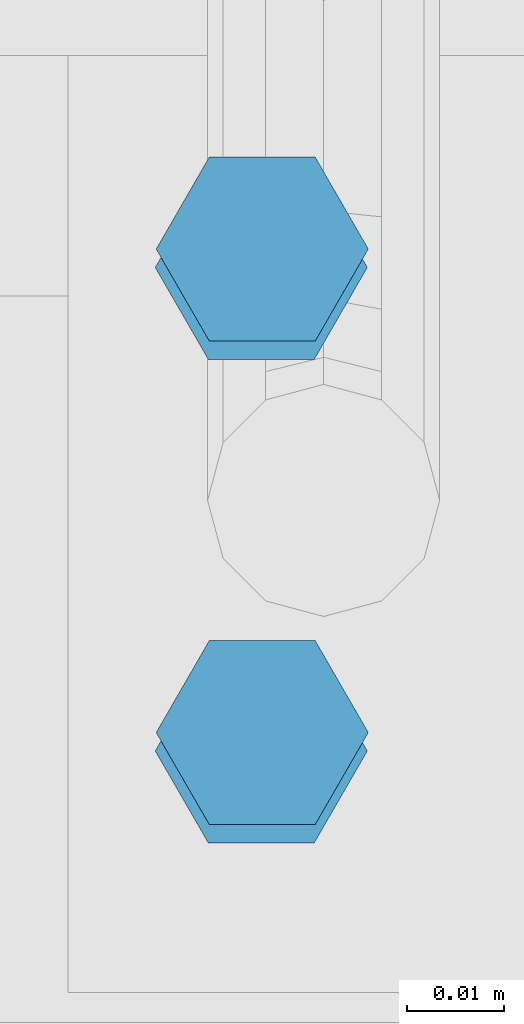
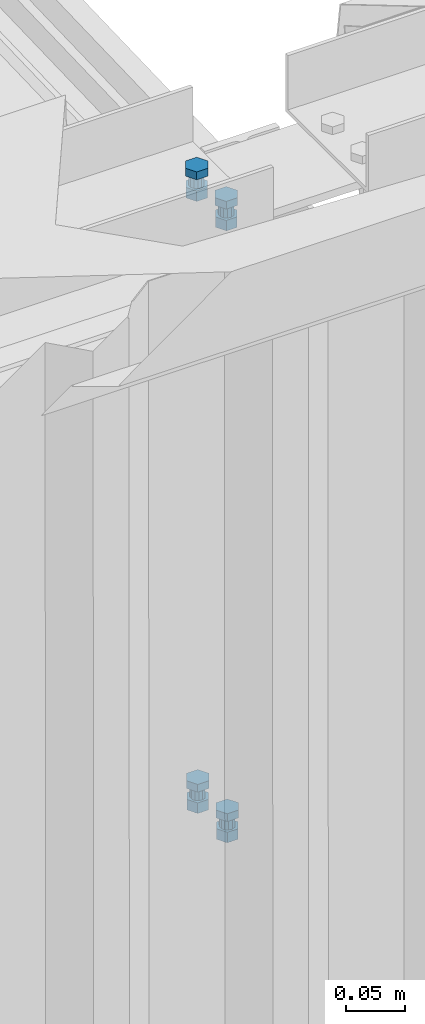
# One storey, part 16 of 18: 2 mechanical fasteners.
"""IFC2X3 building model written with IfcOpenShell, lengths in millimetres."""

import ifcopenshell
import ifcopenshell.guid

model = None  # the IFC model being written
_history = None  # IfcOwnerHistory: only IFC2X3 demands one
_inside = {}  # id of a spatial element -> (the spatial element, [elements in it])
_under = {}  # id of a project, library or spatial element -> (it, [spatial elements below it])
_declared = {}  # id of a project -> (the project, [libraries it declares])
_typed = {}  # id of a type object -> (the type object, [elements of that type])
_made_of = {}  # id of a material, layer set ... -> (it, [elements and type objects made of it])


def new_model(schema):
    """Start an empty IFC model of exactly this schema.

    Asked for "IFC4X3", IfcOpenShell would pick the latest addendum, in which some entities
    have other attributes; the version numbers below select the first issue.
    IFC2X3 requires an IfcOwnerHistory on every rooted entity: one is made here for all.
    """
    global model, _history
    if schema == "IFC4X3":
        model = ifcopenshell.file(schema_version=(4, 3, 0, 0))
    else:
        model = ifcopenshell.file(schema=schema)
    _inside.clear()
    _under.clear()
    _declared.clear()
    _typed.clear()
    _made_of.clear()
    _history = None
    if model.schema == "IFC2X3":
        org = make("IfcOrganization", Name="unknown")
        user = make(
            "IfcPersonAndOrganization",
            ThePerson=make("IfcPerson", FamilyName="unknown"),
            TheOrganization=org,
        )
        app = make(
            "IfcApplication",
            ApplicationDeveloper=org,
            Version="unknown",
            ApplicationFullName="unknown",
            ApplicationIdentifier="unknown",
        )
        _history = make(
            "IfcOwnerHistory",
            OwningUser=user,
            OwningApplication=app,
            ChangeAction="ADDED",
            CreationDate=0,
        )
    return model


def make(cls, **values):
    """One entity of the class cls with the attributes given. An attribute that is None is left unset."""
    return model.create_entity(
        cls, **{name: value for name, value in values.items() if value is not None}
    )


def rooted(cls, **values):
    """An entity with a GlobalId (a new one), such as an element, a storey or a relation."""
    return make(cls, GlobalId=ifcopenshell.guid.new(), OwnerHistory=_history, **values)


def si_unit(unit_type, name, prefix=None):
    """IfcSIUnit, for example si_unit("LENGTHUNIT", "METRE", prefix="MILLI")."""
    return make("IfcSIUnit", UnitType=unit_type, Prefix=prefix, Name=name)


def assignment(units):
    """IfcUnitAssignment: the units of a project."""
    return None if units is None else make("IfcUnitAssignment", Units=units)


def point(xyz):
    """IfcCartesianPoint."""
    return None if xyz is None else make("IfcCartesianPoint", Coordinates=xyz)


def direction(xyz):
    """IfcDirection."""
    return None if xyz is None else make("IfcDirection", DirectionRatios=xyz)


def frame(location, z_axis=None, x_axis=None):
    """IfcAxis2Placement3D, a coordinate frame: its origin and axes. An axis left out is left unset."""
    return make(
        "IfcAxis2Placement3D",
        Location=point(location),
        Axis=direction(z_axis),
        RefDirection=direction(x_axis),
    )


def origin_with_axes():
    """The frame at (0, 0, 0) with the z axis (0, 0, 1) and the x axis (1, 0, 0) written out."""
    return frame((0.0, 0.0, 0.0), z_axis=(0.0, 0.0, 1.0), x_axis=(1.0, 0.0, 0.0))


def place(relative_to, where):
    """IfcLocalPlacement: puts the frame where relative to a parent placement (None: the world)."""
    return make(
        "IfcLocalPlacement", PlacementRelTo=relative_to, RelativePlacement=where
    )


def context(
    kind, dimensions, precision=None, world=None, true_north=None, identifier=None
):
    """IfcGeometricRepresentationContext, for example the 3D "Model" context."""
    return make(
        "IfcGeometricRepresentationContext",
        ContextIdentifier=identifier,
        ContextType=kind,
        CoordinateSpaceDimension=dimensions,
        Precision=precision,
        WorldCoordinateSystem=world,
        TrueNorth=true_north,
    )


def subcontext(parent, identifier, kind, view, scale=None):
    """IfcGeometricRepresentationSubContext, for example "Body" below "Model"."""
    return make(
        "IfcGeometricRepresentationSubContext",
        ContextIdentifier=identifier,
        ContextType=kind,
        ParentContext=parent,
        TargetScale=scale,
        TargetView=view,
    )


def project(units=None, contexts=None):
    """IfcProject with its units and contexts."""
    return rooted(
        "IfcProject",
        Name="project",
        RepresentationContexts=contexts,
        UnitsInContext=assignment(units),
    )


def spatial(cls, under=None, at=None, **own):
    """A site, building, storey or space (cls), placed at a placement, below another one or the project."""
    s = rooted(cls, ObjectPlacement=at, **own)
    if under is not None:
        _under.setdefault(under.id(), (under, []))[1].append(s)
    return s


def faces_of(points, faces, orient=None, outer=None):
    """IfcFace entities. A face is a list of loops; a loop is a list of indices into points, from 0.

    orient and outer hold one flag for each loop. By default every Orientation is true, the
    first loop of a face is its IfcFaceOuterBound and the others are IfcFaceBound.
    """
    made = []
    for i, loops in enumerate(faces):
        bounds = []
        for j, loop in enumerate(loops):
            is_outer = j == 0 if outer is None else outer[i][j]
            bounds.append(
                make(
                    "IfcFaceOuterBound" if is_outer else "IfcFaceBound",
                    Bound=make("IfcPolyLoop", Polygon=[points[k] for k in loop]),
                    Orientation=True if orient is None else orient[i][j],
                )
            )
        made.append(make("IfcFace", Bounds=bounds))
    return made


def faceted_brep(points, faces, orient=None, outer=None, voids=None):
    """IfcFacetedBrep: a solid bounded by flat faces; with voids (closed shells), ...WithVoids."""
    shared = [point(p) for p in points]
    hull = make("IfcClosedShell", CfsFaces=faces_of(shared, faces, orient, outer))
    if voids is None:
        return make("IfcFacetedBrep", Outer=hull)
    return make(
        "IfcFacetedBrepWithVoids",
        Outer=hull,
        Voids=[
            make(cls, CfsFaces=faces_of(shared, fs, o, b)) for cls, fs, o, b in voids
        ],
    )


def shape(context_of_items, identifier, shape_type, items):
    """IfcShapeRepresentation: the items that make up one representation, for example the "Body"."""
    return make(
        "IfcShapeRepresentation",
        ContextOfItems=context_of_items,
        RepresentationIdentifier=identifier,
        RepresentationType=shape_type,
        Items=items,
    )


def source(mapping_origin, context_of_items, identifier, shape_type, items):
    """IfcRepresentationMap: a shape defined once, which mapped items show again and again."""
    return make(
        "IfcRepresentationMap",
        MappingOrigin=mapping_origin,
        MappedRepresentation=shape(context_of_items, identifier, shape_type, items),
    )


def transform(
    local_origin,
    x_axis=None,
    y_axis=None,
    z_axis=None,
    scale=None,
    scale2=None,
    scale3=None,
    uniform=True,
):
    """IfcCartesianTransformationOperator3D, or its non-uniform kind. x_axis, y_axis, z_axis: its Axis1, 2, 3."""
    if uniform:
        return make(
            "IfcCartesianTransformationOperator3D",
            Axis1=direction(x_axis),
            Axis2=direction(y_axis),
            LocalOrigin=point(local_origin),
            Scale=scale,
            Axis3=direction(z_axis),
        )
    return make(
        "IfcCartesianTransformationOperator3DnonUniform",
        Axis1=direction(x_axis),
        Axis2=direction(y_axis),
        LocalOrigin=point(local_origin),
        Scale=scale,
        Axis3=direction(z_axis),
        Scale2=scale2,
        Scale3=scale3,
    )


def mapped(mapping_source, mapping_target):
    """IfcMappedItem: shows the shape of a source again, moved by a transform."""
    return make(
        "IfcMappedItem", MappingSource=mapping_source, MappingTarget=mapping_target
    )


def made_of(thing, what):
    """Note that an element or type object is made of a material, layer set ...; save() writes the relation."""
    if what is not None:
        _made_of.setdefault(what.id(), (what, []))[1].append(thing)
    return thing


def type_object(cls, material=None, **own):
    """A type object (cls), such as IfcWallType, which elements share."""
    return made_of(rooted(cls, **own), material)


def element(
    cls,
    number,
    at=None,
    inside=None,
    cuts=None,
    type_object=None,
    material=None,
    context=None,
    identifier="Body",
    shape_type=None,
    held_by="IfcProductDefinitionShape",
    body=None,
    shapes=None,
    **own,
):
    """One element of the class cls, such as IfcWall. Its Tag is "e" and its number.

    at: its placement. inside: the storey or other place that contains it. cuts: it is an
    opening in that element (IfcRelVoidsElement). A single representation is given by context,
    identifier, shape_type and body (its items); several are given by shapes. held_by: the class
    of the entity that holds the representations. save() writes the other relations.
    """
    e = rooted(cls, Tag="e%d" % number, ObjectPlacement=at, **own)
    if body is not None:
        shapes = [shape(context, identifier, shape_type, body)]
    if shapes is not None:
        e.Representation = make(held_by, Representations=shapes)
    if inside is not None:
        _inside.setdefault(inside.id(), (inside, []))[1].append(e)
    if cuts is not None:
        rooted(
            "IfcRelVoidsElement", RelatingBuildingElement=cuts, RelatedOpeningElement=e
        )
    if type_object is not None:
        _typed.setdefault(type_object.id(), (type_object, []))[1].append(e)
    return made_of(e, material)


def aggregate(whole, parts):
    """IfcRelAggregates: a whole, such as a stair, and the parts it consists of."""
    return rooted("IfcRelAggregates", RelatingObject=whole, RelatedObjects=parts)


def save(model, path):
    """Write the relations noted so far, then the file.

    IfcRelAggregates (storeys below a building ...), IfcRelContainedInSpatialStructure (elements
    in a storey), IfcRelDefinesByType, IfcRelAssociatesMaterial and IfcRelDeclares: one each for
    every whole, place, type object, material and project.
    """
    for whole, parts in _under.values():
        aggregate(whole, parts)
    for where, things in _inside.values():
        rooted(
            "IfcRelContainedInSpatialStructure",
            RelatedElements=things,
            RelatingStructure=where,
        )
    for kind, things in _typed.values():
        rooted("IfcRelDefinesByType", RelatedObjects=things, RelatingType=kind)
    for what, things in _made_of.values():
        rooted("IfcRelAssociatesMaterial", RelatedObjects=things, RelatingMaterial=what)
    for by, libraries in _declared.values():
        rooted("IfcRelDeclares", RelatingContext=by, RelatedDefinitions=libraries)
    model.write(path)


model = new_model("IFC2X3")

# Units and contexts
model_context = context("Model", 3, precision=1e-05, world=origin_with_axes())
body_context = subcontext(model_context, "Body", "Model", "MODEL_VIEW")
ifc_project = project(units=[si_unit("LENGTHUNIT", "METRE", prefix="MILLI"), si_unit("AREAUNIT", "SQUARE_METRE"), si_unit("VOLUMEUNIT", "CUBIC_METRE"), si_unit("MASSUNIT", "GRAM", prefix="KILO"), si_unit("TIMEUNIT", "SECOND"), si_unit("PLANEANGLEUNIT", "RADIAN"), si_unit("SOLIDANGLEUNIT", "STERADIAN"), si_unit("THERMODYNAMICTEMPERATUREUNIT", "DEGREE_CELSIUS"), si_unit("LUMINOUSINTENSITYUNIT", "LUMEN")], contexts=[model_context])

# Site, building, storey
site_placement = place(None, origin_with_axes())
site = spatial("IfcSite", under=ifc_project, at=site_placement, Name="Undefined", CompositionType="ELEMENT")
building_placement = place(site_placement, origin_with_axes())
building = spatial("IfcBuilding", under=site, at=building_placement, Name="Undefined", CompositionType="ELEMENT")
storey_placement = place(building_placement, origin_with_axes())
storey = spatial("IfcBuildingStorey", under=building, at=storey_placement, Name="Undefined", CompositionType="ELEMENT", Elevation=0.0)

# Mechanical fasteners
mechanical_fastener_type = type_object("IfcMechanicalFastenerType", Name="Bolt assembly")
shared_shape_1 = source(origin_with_axes(), body_context, "Body", "Brep", [
    faceted_brep([(10.96965511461, -18.0005665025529, 0.0), (5.484827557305, -18.0005665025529, 9.50000000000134), (-5.484827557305, -18.0005665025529, 9.50000000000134), (-10.96965511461, -18.0005665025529, 0.0), (-5.484827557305, -18.0005665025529, -9.50000000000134), (5.484827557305, -18.0005665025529, -9.50000000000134), (5.484827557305, -10.0005665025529, -9.50000000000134), (-5.484827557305, -10.0005665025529, -9.50000000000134), (-10.96965511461, -10.0005665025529, 0.0), (-5.484827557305, -10.0005665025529, 9.50000000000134), (5.484827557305, -10.0005665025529, 9.50000000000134), (10.96965511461, -10.0005665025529, 0.0), (6.0, -10.0005665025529, 0.0), (5.31273615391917, -10.0005665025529, 2.78833903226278), (3.40838848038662, -10.0005665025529, 4.93790319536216), (0.723220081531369, -10.0005665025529, 5.95625324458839), (-2.12762932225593, -10.0005665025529, 5.61009745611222), (-4.49106448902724, -10.0005665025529, 3.97873594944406), (-5.82565090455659, -10.0005665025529, 1.43589398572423), (-5.82565090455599, -10.0005665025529, -1.43589398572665), (-4.49106448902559, -10.0005665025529, -3.97873594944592), (-2.12762932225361, -10.0005665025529, -5.6100974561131), (0.723220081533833, -10.0005665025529, -5.95625324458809), (3.40838848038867, -10.0005665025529, -4.93790319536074), (3.40838848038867, 14.9994334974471, -4.93790319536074), (0.723220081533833, 14.9994334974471, -5.95625324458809), (-2.12762932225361, 14.9994334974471, -5.6100974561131), (-4.49106448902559, 14.9994334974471, -3.97873594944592), (-5.82565090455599, 14.9994334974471, -1.43589398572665), (-5.82565090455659, 14.9994334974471, 1.43589398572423), (-4.49106448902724, 14.9994334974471, 3.97873594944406), (-2.12762932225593, 14.9994334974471, 5.61009745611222), (0.723220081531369, 14.9994334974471, 5.95625324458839), (3.40838848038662, 14.9994334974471, 4.93790319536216), (5.31273615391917, 14.9994334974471, 2.78833903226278), (6.0, 14.9994334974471, 0.0), (10.39230484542, 1.99943250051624, 0.0), (5.19615242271, 1.99943250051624, 9.00000000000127), (-5.19615242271, 1.99943250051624, 9.00000000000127), (-10.39230484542, 1.99943250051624, 0.0), (-5.19615242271, 1.99943250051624, -9.00000000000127), (5.19615242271, 1.99943250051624, -9.00000000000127), (5.19615242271, 12.7994326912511, -9.00000000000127), (-5.19615242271, 12.7994326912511, -9.00000000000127), (-10.39230484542, 12.7994326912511, 0.0), (-5.19615242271, 12.7994326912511, 9.00000000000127), (5.19615242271, 12.7994326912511, 9.00000000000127), (10.39230484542, 12.7994326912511, 0.0)], [[[0, 1, 2, 3, 4, 5]], [[6, 7, 8, 9, 10, 11]], [[0, 11, 10, 1]], [[1, 10, 9, 2]], [[2, 9, 8, 3]], [[3, 8, 7, 4]], [[4, 7, 6, 5]], [[5, 6, 11, 0]], [[12, 13, 14, 15, 16, 17, 18, 19, 20, 21, 22, 23]], [[24, 25, 26, 27, 28, 29, 30, 31, 32, 33, 34, 35]], [[12, 35, 34, 13]], [[13, 34, 33, 14]], [[14, 33, 32, 15]], [[15, 32, 31, 16]], [[16, 31, 30, 17]], [[17, 30, 29, 18]], [[18, 29, 28, 19]], [[19, 28, 27, 20]], [[20, 27, 26, 21]], [[21, 26, 25, 22]], [[22, 25, 24, 23]], [[23, 24, 35, 12]], [[36, 37, 38, 39, 40, 41]], [[42, 43, 44, 45, 46, 47]], [[36, 47, 46, 37]], [[37, 46, 45, 38]], [[38, 45, 44, 39]], [[39, 44, 43, 40]], [[40, 43, 42, 41]], [[41, 42, 47, 36]]]),
    faceted_brep([(7.0, -6.10056750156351, 0.0), (6.19819217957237, -6.10056750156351, 3.25306220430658), (3.97645322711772, -6.10056750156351, 5.76088706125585), (0.843756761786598, -6.10056750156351, 6.94896211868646), (-2.48223420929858, -6.10056750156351, 6.54511369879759), (-5.23957523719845, -6.10056750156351, 4.64185860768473), (-6.79659272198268, -6.10056750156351, 1.67520965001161), (-6.79659272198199, -6.10056750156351, -1.67520965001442), (-5.23957523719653, -6.10056750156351, -4.6418586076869), (-2.48223420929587, -6.10056750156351, -6.54511369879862), (0.843756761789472, -6.10056750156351, -6.94896211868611), (3.97645322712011, -6.10056750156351, -5.7608870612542), (3.97645322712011, 1.99943250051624, -5.7608870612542), (0.843756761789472, 1.99943250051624, -6.94896211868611), (-2.48223420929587, 1.99943250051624, -6.54511369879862), (-5.23957523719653, 1.99943250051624, -4.6418586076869), (-6.79659272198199, 1.99943250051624, -1.67520965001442), (-6.79659272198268, 1.99943250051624, 1.67520965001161), (-5.23957523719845, 1.99943250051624, 4.64185860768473), (-2.48223420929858, 1.99943250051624, 6.54511369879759), (0.843756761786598, 1.99943250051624, 6.94896211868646), (3.97645322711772, 1.99943250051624, 5.76088706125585), (6.19819217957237, 1.99943250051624, 3.25306220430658), (7.0, 1.99943250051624, 0.0), (7.0, -9.90056650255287, 0.0), (6.19819217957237, -9.90056650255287, 3.25306220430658), (3.97645322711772, -9.90056650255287, 5.76088706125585), (0.843756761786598, -9.90056650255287, 6.94896211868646), (-2.48223420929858, -9.90056650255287, 6.54511369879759), (-5.23957523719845, -9.90056650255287, 4.64185860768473), (-6.79659272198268, -9.90056650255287, 1.67520965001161), (-6.79659272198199, -9.90056650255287, -1.67520965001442), (-5.23957523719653, -9.90056650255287, -4.6418586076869), (-2.48223420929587, -9.90056650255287, -6.54511369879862), (0.843756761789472, -9.90056650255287, -6.94896211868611), (3.97645322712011, -9.90056650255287, -5.7608870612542), (3.97645322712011, -5.90056650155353, -5.7608870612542), (0.843756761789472, -5.90056650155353, -6.94896211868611), (-2.48223420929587, -5.90056650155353, -6.54511369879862), (-5.23957523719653, -5.90056650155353, -4.6418586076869), (-6.79659272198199, -5.90056650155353, -1.67520965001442), (-6.79659272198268, -5.90056650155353, 1.67520965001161), (-5.23957523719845, -5.90056650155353, 4.64185860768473), (-2.48223420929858, -5.90056650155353, 6.54511369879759), (0.843756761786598, -5.90056650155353, 6.94896211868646), (3.97645322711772, -5.90056650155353, 5.76088706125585), (6.19819217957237, -5.90056650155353, 3.25306220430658), (7.0, -5.90056650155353, 0.0)], [[[0, 1, 2, 3, 4, 5, 6, 7, 8, 9, 10, 11]], [[12, 13, 14, 15, 16, 17, 18, 19, 20, 21, 22, 23]], [[0, 23, 22, 1]], [[1, 22, 21, 2]], [[2, 21, 20, 3]], [[3, 20, 19, 4]], [[4, 19, 18, 5]], [[5, 18, 17, 6]], [[6, 17, 16, 7]], [[7, 16, 15, 8]], [[8, 15, 14, 9]], [[9, 14, 13, 10]], [[10, 13, 12, 11]], [[11, 12, 23, 0]], [[24, 25, 26, 27, 28, 29, 30, 31, 32, 33, 34, 35]], [[36, 37, 38, 39, 40, 41, 42, 43, 44, 45, 46, 47]], [[24, 47, 46, 25]], [[25, 46, 45, 26]], [[26, 45, 44, 27]], [[27, 44, 43, 28]], [[28, 43, 42, 29]], [[29, 42, 41, 30]], [[30, 41, 40, 31]], [[31, 40, 39, 32]], [[32, 39, 38, 33]], [[33, 38, 37, 34]], [[34, 37, 36, 35]], [[35, 36, 47, 24]]]),
])
shared_shape_2 = source(origin_with_axes(), body_context, "Body", "Brep", [
    faceted_brep([(10.96965511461, -18.0005665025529, 0.0), (5.484827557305, -18.0005665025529, 9.50000000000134), (-5.484827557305, -18.0005665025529, 9.50000000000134), (-10.96965511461, -18.0005665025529, 0.0), (-5.484827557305, -18.0005665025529, -9.50000000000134), (5.484827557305, -18.0005665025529, -9.50000000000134), (5.484827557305, -10.0005665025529, -9.50000000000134), (-5.484827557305, -10.0005665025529, -9.50000000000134), (-10.96965511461, -10.0005665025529, 0.0), (-5.484827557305, -10.0005665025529, 9.50000000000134), (5.484827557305, -10.0005665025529, 9.50000000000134), (10.96965511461, -10.0005665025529, 0.0), (6.0, -10.0005665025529, 0.0), (5.31273615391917, -10.0005665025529, 2.78833903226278), (3.40838848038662, -10.0005665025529, 4.93790319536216), (0.723220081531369, -10.0005665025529, 5.95625324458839), (-2.12762932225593, -10.0005665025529, 5.61009745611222), (-4.49106448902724, -10.0005665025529, 3.97873594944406), (-5.82565090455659, -10.0005665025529, 1.43589398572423), (-5.82565090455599, -10.0005665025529, -1.43589398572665), (-4.49106448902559, -10.0005665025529, -3.97873594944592), (-2.12762932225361, -10.0005665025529, -5.6100974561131), (0.723220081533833, -10.0005665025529, -5.95625324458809), (3.40838848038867, -10.0005665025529, -4.93790319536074), (3.40838848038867, 14.9994334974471, -4.93790319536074), (0.723220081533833, 14.9994334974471, -5.95625324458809), (-2.12762932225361, 14.9994334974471, -5.6100974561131), (-4.49106448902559, 14.9994334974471, -3.97873594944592), (-5.82565090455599, 14.9994334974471, -1.43589398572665), (-5.82565090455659, 14.9994334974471, 1.43589398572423), (-4.49106448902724, 14.9994334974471, 3.97873594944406), (-2.12762932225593, 14.9994334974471, 5.61009745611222), (0.723220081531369, 14.9994334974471, 5.95625324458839), (3.40838848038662, 14.9994334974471, 4.93790319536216), (5.31273615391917, 14.9994334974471, 2.78833903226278), (6.0, 14.9994334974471, 0.0), (10.39230484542, 1.99943250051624, 0.0), (5.19615242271, 1.99943250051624, 9.00000000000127), (-5.19615242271, 1.99943250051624, 9.00000000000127), (-10.39230484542, 1.99943250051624, 0.0), (-5.19615242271, 1.99943250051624, -9.00000000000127), (5.19615242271, 1.99943250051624, -9.00000000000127), (5.19615242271, 12.7994326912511, -9.00000000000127), (-5.19615242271, 12.7994326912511, -9.00000000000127), (-10.39230484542, 12.7994326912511, 0.0), (-5.19615242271, 12.7994326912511, 9.00000000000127), (5.19615242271, 12.7994326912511, 9.00000000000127), (10.39230484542, 12.7994326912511, 0.0)], [[[0, 1, 2, 3, 4, 5]], [[6, 7, 8, 9, 10, 11]], [[0, 11, 10, 1]], [[1, 10, 9, 2]], [[2, 9, 8, 3]], [[3, 8, 7, 4]], [[4, 7, 6, 5]], [[5, 6, 11, 0]], [[12, 13, 14, 15, 16, 17, 18, 19, 20, 21, 22, 23]], [[24, 25, 26, 27, 28, 29, 30, 31, 32, 33, 34, 35]], [[12, 35, 34, 13]], [[13, 34, 33, 14]], [[14, 33, 32, 15]], [[15, 32, 31, 16]], [[16, 31, 30, 17]], [[17, 30, 29, 18]], [[18, 29, 28, 19]], [[19, 28, 27, 20]], [[20, 27, 26, 21]], [[21, 26, 25, 22]], [[22, 25, 24, 23]], [[23, 24, 35, 12]], [[36, 37, 38, 39, 40, 41]], [[42, 43, 44, 45, 46, 47]], [[36, 47, 46, 37]], [[37, 46, 45, 38]], [[38, 45, 44, 39]], [[39, 44, 43, 40]], [[40, 43, 42, 41]], [[41, 42, 47, 36]]]),
    faceted_brep([(7.0, -6.10056750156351, 0.0), (6.19819217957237, -6.10056750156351, 3.25306220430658), (3.97645322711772, -6.10056750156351, 5.76088706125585), (0.843756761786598, -6.10056750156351, 6.94896211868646), (-2.48223420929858, -6.10056750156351, 6.54511369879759), (-5.23957523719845, -6.10056750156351, 4.64185860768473), (-6.79659272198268, -6.10056750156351, 1.67520965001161), (-6.79659272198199, -6.10056750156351, -1.67520965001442), (-5.23957523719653, -6.10056750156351, -4.6418586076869), (-2.48223420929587, -6.10056750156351, -6.54511369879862), (0.843756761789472, -6.10056750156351, -6.94896211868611), (3.97645322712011, -6.10056750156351, -5.7608870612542), (3.97645322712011, 1.99943250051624, -5.7608870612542), (0.843756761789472, 1.99943250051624, -6.94896211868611), (-2.48223420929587, 1.99943250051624, -6.54511369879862), (-5.23957523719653, 1.99943250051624, -4.6418586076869), (-6.79659272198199, 1.99943250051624, -1.67520965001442), (-6.79659272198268, 1.99943250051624, 1.67520965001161), (-5.23957523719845, 1.99943250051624, 4.64185860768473), (-2.48223420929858, 1.99943250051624, 6.54511369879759), (0.843756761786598, 1.99943250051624, 6.94896211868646), (3.97645322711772, 1.99943250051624, 5.76088706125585), (6.19819217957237, 1.99943250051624, 3.25306220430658), (7.0, 1.99943250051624, 0.0), (7.0, -9.90056650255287, 0.0), (6.19819217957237, -9.90056650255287, 3.25306220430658), (3.97645322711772, -9.90056650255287, 5.76088706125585), (0.843756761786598, -9.90056650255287, 6.94896211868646), (-2.48223420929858, -9.90056650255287, 6.54511369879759), (-5.23957523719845, -9.90056650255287, 4.64185860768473), (-6.79659272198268, -9.90056650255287, 1.67520965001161), (-6.79659272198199, -9.90056650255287, -1.67520965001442), (-5.23957523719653, -9.90056650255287, -4.6418586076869), (-2.48223420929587, -9.90056650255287, -6.54511369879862), (0.843756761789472, -9.90056650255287, -6.94896211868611), (3.97645322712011, -9.90056650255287, -5.7608870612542), (3.97645322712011, -5.90056650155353, -5.7608870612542), (0.843756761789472, -5.90056650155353, -6.94896211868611), (-2.48223420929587, -5.90056650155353, -6.54511369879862), (-5.23957523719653, -5.90056650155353, -4.6418586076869), (-6.79659272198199, -5.90056650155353, -1.67520965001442), (-6.79659272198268, -5.90056650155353, 1.67520965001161), (-5.23957523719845, -5.90056650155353, 4.64185860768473), (-2.48223420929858, -5.90056650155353, 6.54511369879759), (0.843756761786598, -5.90056650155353, 6.94896211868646), (3.97645322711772, -5.90056650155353, 5.76088706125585), (6.19819217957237, -5.90056650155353, 3.25306220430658), (7.0, -5.90056650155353, 0.0)], [[[0, 1, 2, 3, 4, 5, 6, 7, 8, 9, 10, 11]], [[12, 13, 14, 15, 16, 17, 18, 19, 20, 21, 22, 23]], [[0, 23, 22, 1]], [[1, 22, 21, 2]], [[2, 21, 20, 3]], [[3, 20, 19, 4]], [[4, 19, 18, 5]], [[5, 18, 17, 6]], [[6, 17, 16, 7]], [[7, 16, 15, 8]], [[8, 15, 14, 9]], [[9, 14, 13, 10]], [[10, 13, 12, 11]], [[11, 12, 23, 0]], [[24, 25, 26, 27, 28, 29, 30, 31, 32, 33, 34, 35]], [[36, 37, 38, 39, 40, 41, 42, 43, 44, 45, 46, 47]], [[24, 47, 46, 25]], [[25, 46, 45, 26]], [[26, 45, 44, 27]], [[27, 44, 43, 28]], [[28, 43, 42, 29]], [[29, 42, 41, 30]], [[30, 41, 40, 31]], [[31, 40, 39, 32]], [[32, 39, 38, 33]], [[33, 38, 37, 34]], [[34, 37, 36, 35]], [[35, 36, 47, 24]]]),
])
mechanical_fastener_1_placement = place(storey_placement, frame((-66.3499999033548, -154.999801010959, 6524.00000000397), z_axis=(-9.15605459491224e-14, 0.999999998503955, 5.47000045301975e-05), x_axis=(1.0, 0.0, 0.0)))
element("IfcMechanicalFastener", 1, at=mechanical_fastener_1_placement, inside=storey, type_object=mechanical_fastener_type, Name="Bolt assembly", NominalDiameter=12.0, NominalLength=30.0, context=body_context, shape_type="MappedRepresentation", body=[
    mapped(shared_shape_1, transform((0.0, 0.0, -25.0))),
    mapped(shared_shape_2, transform((0.0, 0.0, 25.0))),
])
shared_shape_3 = source(origin_with_axes(), body_context, "Body", "Brep", [
    faceted_brep([(10.96965511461, -17.5333220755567, 0.0), (5.484827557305, -17.5333220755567, 9.50000000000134), (-5.484827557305, -17.5333220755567, 9.50000000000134), (-10.96965511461, -17.5333220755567, 0.0), (-5.484827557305, -17.5333220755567, -9.50000000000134), (5.484827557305, -17.5333220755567, -9.50000000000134), (5.484827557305, -9.53332207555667, -9.50000000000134), (-5.484827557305, -9.53332207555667, -9.50000000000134), (-10.96965511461, -9.53332207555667, 0.0), (-5.484827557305, -9.53332207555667, 9.50000000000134), (5.484827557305, -9.53332207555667, 9.50000000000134), (10.96965511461, -9.53332207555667, 0.0), (6.0, -9.53332207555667, 0.0), (5.31273615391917, -9.53332207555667, 2.78833903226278), (3.40838848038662, -9.53332207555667, 4.93790319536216), (0.723220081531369, -9.53332207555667, 5.95625324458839), (-2.12762932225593, -9.53332207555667, 5.61009745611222), (-4.49106448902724, -9.53332207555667, 3.97873594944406), (-5.82565090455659, -9.53332207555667, 1.43589398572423), (-5.82565090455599, -9.53332207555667, -1.43589398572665), (-4.49106448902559, -9.53332207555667, -3.97873594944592), (-2.12762932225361, -9.53332207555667, -5.6100974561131), (0.723220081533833, -9.53332207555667, -5.95625324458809), (3.40838848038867, -9.53332207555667, -4.93790319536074), (3.40838848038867, 15.4666779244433, -4.93790319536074), (0.723220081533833, 15.4666779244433, -5.95625324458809), (-2.12762932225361, 15.4666779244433, -5.6100974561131), (-4.49106448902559, 15.4666779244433, -3.97873594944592), (-5.82565090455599, 15.4666779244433, -1.43589398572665), (-5.82565090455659, 15.4666779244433, 1.43589398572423), (-4.49106448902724, 15.4666779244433, 3.97873594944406), (-2.12762932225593, 15.4666779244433, 5.61009745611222), (0.723220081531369, 15.4666779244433, 5.95625324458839), (3.40838848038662, 15.4666779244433, 4.93790319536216), (5.31273615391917, 15.4666779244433, 2.78833903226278), (6.0, 15.4666779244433, 0.0), (10.39230484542, 1.99943250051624, 0.0), (5.19615242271, 1.99943250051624, 9.00000000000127), (-5.19615242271, 1.99943250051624, 9.00000000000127), (-10.39230484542, 1.99943250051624, 0.0), (-5.19615242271, 1.99943250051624, -9.00000000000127), (5.19615242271, 1.99943250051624, -9.00000000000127), (5.19615242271, 12.7994326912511, -9.00000000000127), (-5.19615242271, 12.7994326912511, -9.00000000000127), (-10.39230484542, 12.7994326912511, 0.0), (-5.19615242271, 12.7994326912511, 9.00000000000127), (5.19615242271, 12.7994326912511, 9.00000000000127), (10.39230484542, 12.7994326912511, 0.0)], [[[0, 1, 2, 3, 4, 5]], [[6, 7, 8, 9, 10, 11]], [[0, 11, 10, 1]], [[1, 10, 9, 2]], [[2, 9, 8, 3]], [[3, 8, 7, 4]], [[4, 7, 6, 5]], [[5, 6, 11, 0]], [[12, 13, 14, 15, 16, 17, 18, 19, 20, 21, 22, 23]], [[24, 25, 26, 27, 28, 29, 30, 31, 32, 33, 34, 35]], [[12, 35, 34, 13]], [[13, 34, 33, 14]], [[14, 33, 32, 15]], [[15, 32, 31, 16]], [[16, 31, 30, 17]], [[17, 30, 29, 18]], [[18, 29, 28, 19]], [[19, 28, 27, 20]], [[20, 27, 26, 21]], [[21, 26, 25, 22]], [[22, 25, 24, 23]], [[23, 24, 35, 12]], [[36, 37, 38, 39, 40, 41]], [[42, 43, 44, 45, 46, 47]], [[36, 47, 46, 37]], [[37, 46, 45, 38]], [[38, 45, 44, 39]], [[39, 44, 43, 40]], [[40, 43, 42, 41]], [[41, 42, 47, 36]]]),
    faceted_brep([(7.0, -6.10056750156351, 0.0), (6.19819217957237, -6.10056750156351, 3.25306220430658), (3.97645322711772, -6.10056750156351, 5.76088706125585), (0.843756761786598, -6.10056750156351, 6.94896211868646), (-2.48223420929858, -6.10056750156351, 6.54511369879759), (-5.23957523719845, -6.10056750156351, 4.64185860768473), (-6.79659272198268, -6.10056750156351, 1.67520965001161), (-6.79659272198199, -6.10056750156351, -1.67520965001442), (-5.23957523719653, -6.10056750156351, -4.6418586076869), (-2.48223420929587, -6.10056750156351, -6.54511369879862), (0.843756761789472, -6.10056750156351, -6.94896211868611), (3.97645322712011, -6.10056750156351, -5.7608870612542), (3.97645322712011, 1.99943250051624, -5.7608870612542), (0.843756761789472, 1.99943250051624, -6.94896211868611), (-2.48223420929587, 1.99943250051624, -6.54511369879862), (-5.23957523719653, 1.99943250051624, -4.6418586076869), (-6.79659272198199, 1.99943250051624, -1.67520965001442), (-6.79659272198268, 1.99943250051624, 1.67520965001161), (-5.23957523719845, 1.99943250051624, 4.64185860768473), (-2.48223420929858, 1.99943250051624, 6.54511369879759), (0.843756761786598, 1.99943250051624, 6.94896211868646), (3.97645322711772, 1.99943250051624, 5.76088706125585), (6.19819217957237, 1.99943250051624, 3.25306220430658), (7.0, 1.99943250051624, 0.0), (7.0, -9.43332207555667, 0.0), (6.19819217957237, -9.43332207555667, 3.25306220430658), (3.97645322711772, -9.43332207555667, 5.76088706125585), (0.843756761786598, -9.43332207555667, 6.94896211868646), (-2.48223420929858, -9.43332207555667, 6.54511369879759), (-5.23957523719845, -9.43332207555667, 4.64185860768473), (-6.79659272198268, -9.43332207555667, 1.67520965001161), (-6.79659272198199, -9.43332207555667, -1.67520965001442), (-5.23957523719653, -9.43332207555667, -4.6418586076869), (-2.48223420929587, -9.43332207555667, -6.54511369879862), (0.843756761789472, -9.43332207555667, -6.94896211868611), (3.97645322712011, -9.43332207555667, -5.7608870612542), (3.97645322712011, -5.43332207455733, -5.7608870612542), (0.843756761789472, -5.43332207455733, -6.94896211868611), (-2.48223420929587, -5.43332207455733, -6.54511369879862), (-5.23957523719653, -5.43332207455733, -4.6418586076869), (-6.79659272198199, -5.43332207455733, -1.67520965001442), (-6.79659272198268, -5.43332207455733, 1.67520965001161), (-5.23957523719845, -5.43332207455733, 4.64185860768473), (-2.48223420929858, -5.43332207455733, 6.54511369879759), (0.843756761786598, -5.43332207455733, 6.94896211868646), (3.97645322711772, -5.43332207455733, 5.76088706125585), (6.19819217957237, -5.43332207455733, 3.25306220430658), (7.0, -5.43332207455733, 0.0)], [[[0, 1, 2, 3, 4, 5, 6, 7, 8, 9, 10, 11]], [[12, 13, 14, 15, 16, 17, 18, 19, 20, 21, 22, 23]], [[0, 23, 22, 1]], [[1, 22, 21, 2]], [[2, 21, 20, 3]], [[3, 20, 19, 4]], [[4, 19, 18, 5]], [[5, 18, 17, 6]], [[6, 17, 16, 7]], [[7, 16, 15, 8]], [[8, 15, 14, 9]], [[9, 14, 13, 10]], [[10, 13, 12, 11]], [[11, 12, 23, 0]], [[24, 25, 26, 27, 28, 29, 30, 31, 32, 33, 34, 35]], [[36, 37, 38, 39, 40, 41, 42, 43, 44, 45, 46, 47]], [[24, 47, 46, 25]], [[25, 46, 45, 26]], [[26, 45, 44, 27]], [[27, 44, 43, 28]], [[28, 43, 42, 29]], [[29, 42, 41, 30]], [[30, 41, 40, 31]], [[31, 40, 39, 32]], [[32, 39, 38, 33]], [[33, 38, 37, 34]], [[34, 37, 36, 35]], [[35, 36, 47, 24]]]),
])
shared_shape_4 = source(origin_with_axes(), body_context, "Body", "Brep", [
    faceted_brep([(10.96965511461, -17.5333220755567, 0.0), (5.484827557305, -17.5333220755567, 9.50000000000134), (-5.484827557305, -17.5333220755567, 9.50000000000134), (-10.96965511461, -17.5333220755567, 0.0), (-5.484827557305, -17.5333220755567, -9.50000000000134), (5.484827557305, -17.5333220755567, -9.50000000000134), (5.484827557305, -9.53332207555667, -9.50000000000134), (-5.484827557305, -9.53332207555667, -9.50000000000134), (-10.96965511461, -9.53332207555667, 0.0), (-5.484827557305, -9.53332207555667, 9.50000000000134), (5.484827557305, -9.53332207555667, 9.50000000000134), (10.96965511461, -9.53332207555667, 0.0), (6.0, -9.53332207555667, 0.0), (5.31273615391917, -9.53332207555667, 2.78833903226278), (3.40838848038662, -9.53332207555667, 4.93790319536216), (0.723220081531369, -9.53332207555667, 5.95625324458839), (-2.12762932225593, -9.53332207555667, 5.61009745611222), (-4.49106448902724, -9.53332207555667, 3.97873594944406), (-5.82565090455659, -9.53332207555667, 1.43589398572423), (-5.82565090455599, -9.53332207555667, -1.43589398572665), (-4.49106448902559, -9.53332207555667, -3.97873594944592), (-2.12762932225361, -9.53332207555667, -5.6100974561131), (0.723220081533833, -9.53332207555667, -5.95625324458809), (3.40838848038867, -9.53332207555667, -4.93790319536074), (3.40838848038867, 15.4666779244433, -4.93790319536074), (0.723220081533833, 15.4666779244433, -5.95625324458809), (-2.12762932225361, 15.4666779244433, -5.6100974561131), (-4.49106448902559, 15.4666779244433, -3.97873594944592), (-5.82565090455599, 15.4666779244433, -1.43589398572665), (-5.82565090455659, 15.4666779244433, 1.43589398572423), (-4.49106448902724, 15.4666779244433, 3.97873594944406), (-2.12762932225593, 15.4666779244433, 5.61009745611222), (0.723220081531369, 15.4666779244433, 5.95625324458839), (3.40838848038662, 15.4666779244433, 4.93790319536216), (5.31273615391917, 15.4666779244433, 2.78833903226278), (6.0, 15.4666779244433, 0.0), (10.39230484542, 1.99943250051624, 0.0), (5.19615242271, 1.99943250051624, 9.00000000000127), (-5.19615242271, 1.99943250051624, 9.00000000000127), (-10.39230484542, 1.99943250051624, 0.0), (-5.19615242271, 1.99943250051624, -9.00000000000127), (5.19615242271, 1.99943250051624, -9.00000000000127), (5.19615242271, 12.7994326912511, -9.00000000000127), (-5.19615242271, 12.7994326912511, -9.00000000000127), (-10.39230484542, 12.7994326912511, 0.0), (-5.19615242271, 12.7994326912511, 9.00000000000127), (5.19615242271, 12.7994326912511, 9.00000000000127), (10.39230484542, 12.7994326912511, 0.0)], [[[0, 1, 2, 3, 4, 5]], [[6, 7, 8, 9, 10, 11]], [[0, 11, 10, 1]], [[1, 10, 9, 2]], [[2, 9, 8, 3]], [[3, 8, 7, 4]], [[4, 7, 6, 5]], [[5, 6, 11, 0]], [[12, 13, 14, 15, 16, 17, 18, 19, 20, 21, 22, 23]], [[24, 25, 26, 27, 28, 29, 30, 31, 32, 33, 34, 35]], [[12, 35, 34, 13]], [[13, 34, 33, 14]], [[14, 33, 32, 15]], [[15, 32, 31, 16]], [[16, 31, 30, 17]], [[17, 30, 29, 18]], [[18, 29, 28, 19]], [[19, 28, 27, 20]], [[20, 27, 26, 21]], [[21, 26, 25, 22]], [[22, 25, 24, 23]], [[23, 24, 35, 12]], [[36, 37, 38, 39, 40, 41]], [[42, 43, 44, 45, 46, 47]], [[36, 47, 46, 37]], [[37, 46, 45, 38]], [[38, 45, 44, 39]], [[39, 44, 43, 40]], [[40, 43, 42, 41]], [[41, 42, 47, 36]]]),
    faceted_brep([(7.0, -6.10056750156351, 0.0), (6.19819217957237, -6.10056750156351, 3.25306220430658), (3.97645322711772, -6.10056750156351, 5.76088706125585), (0.843756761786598, -6.10056750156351, 6.94896211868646), (-2.48223420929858, -6.10056750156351, 6.54511369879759), (-5.23957523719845, -6.10056750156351, 4.64185860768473), (-6.79659272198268, -6.10056750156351, 1.67520965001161), (-6.79659272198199, -6.10056750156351, -1.67520965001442), (-5.23957523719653, -6.10056750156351, -4.6418586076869), (-2.48223420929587, -6.10056750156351, -6.54511369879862), (0.843756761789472, -6.10056750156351, -6.94896211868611), (3.97645322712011, -6.10056750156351, -5.7608870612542), (3.97645322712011, 1.99943250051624, -5.7608870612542), (0.843756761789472, 1.99943250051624, -6.94896211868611), (-2.48223420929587, 1.99943250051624, -6.54511369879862), (-5.23957523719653, 1.99943250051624, -4.6418586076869), (-6.79659272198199, 1.99943250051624, -1.67520965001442), (-6.79659272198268, 1.99943250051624, 1.67520965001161), (-5.23957523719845, 1.99943250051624, 4.64185860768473), (-2.48223420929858, 1.99943250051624, 6.54511369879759), (0.843756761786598, 1.99943250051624, 6.94896211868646), (3.97645322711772, 1.99943250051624, 5.76088706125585), (6.19819217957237, 1.99943250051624, 3.25306220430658), (7.0, 1.99943250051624, 0.0), (7.0, -9.43332207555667, 0.0), (6.19819217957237, -9.43332207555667, 3.25306220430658), (3.97645322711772, -9.43332207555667, 5.76088706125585), (0.843756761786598, -9.43332207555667, 6.94896211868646), (-2.48223420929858, -9.43332207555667, 6.54511369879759), (-5.23957523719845, -9.43332207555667, 4.64185860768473), (-6.79659272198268, -9.43332207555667, 1.67520965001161), (-6.79659272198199, -9.43332207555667, -1.67520965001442), (-5.23957523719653, -9.43332207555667, -4.6418586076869), (-2.48223420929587, -9.43332207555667, -6.54511369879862), (0.843756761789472, -9.43332207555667, -6.94896211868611), (3.97645322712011, -9.43332207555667, -5.7608870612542), (3.97645322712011, -5.43332207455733, -5.7608870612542), (0.843756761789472, -5.43332207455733, -6.94896211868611), (-2.48223420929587, -5.43332207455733, -6.54511369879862), (-5.23957523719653, -5.43332207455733, -4.6418586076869), (-6.79659272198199, -5.43332207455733, -1.67520965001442), (-6.79659272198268, -5.43332207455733, 1.67520965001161), (-5.23957523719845, -5.43332207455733, 4.64185860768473), (-2.48223420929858, -5.43332207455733, 6.54511369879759), (0.843756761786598, -5.43332207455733, 6.94896211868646), (3.97645322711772, -5.43332207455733, 5.76088706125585), (6.19819217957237, -5.43332207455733, 3.25306220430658), (7.0, -5.43332207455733, 0.0)], [[[0, 1, 2, 3, 4, 5, 6, 7, 8, 9, 10, 11]], [[12, 13, 14, 15, 16, 17, 18, 19, 20, 21, 22, 23]], [[0, 23, 22, 1]], [[1, 22, 21, 2]], [[2, 21, 20, 3]], [[3, 20, 19, 4]], [[4, 19, 18, 5]], [[5, 18, 17, 6]], [[6, 17, 16, 7]], [[7, 16, 15, 8]], [[8, 15, 14, 9]], [[9, 14, 13, 10]], [[10, 13, 12, 11]], [[11, 12, 23, 0]], [[24, 25, 26, 27, 28, 29, 30, 31, 32, 33, 34, 35]], [[36, 37, 38, 39, 40, 41, 42, 43, 44, 45, 46, 47]], [[24, 47, 46, 25]], [[25, 46, 45, 26]], [[26, 45, 44, 27]], [[27, 44, 43, 28]], [[28, 43, 42, 29]], [[29, 42, 41, 30]], [[30, 41, 40, 31]], [[31, 40, 39, 32]], [[32, 39, 38, 33]], [[33, 38, 37, 34]], [[34, 37, 36, 35]], [[35, 36, 47, 24]]]),
])
mechanical_fastener_2_placement = place(storey_placement, frame((-66.4506899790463, -156.908175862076, 5894.01718311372), z_axis=(-9.15605459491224e-14, 0.999999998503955, 5.47000045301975e-05), x_axis=(1.0, 0.0, 0.0)))
element("IfcMechanicalFastener", 2, at=mechanical_fastener_2_placement, inside=storey, type_object=mechanical_fastener_type, Name="Bolt assembly", NominalDiameter=12.0, NominalLength=30.0, context=body_context, shape_type="MappedRepresentation", body=[
    mapped(shared_shape_3, transform((0.0, 0.0, -25.0))),
    mapped(shared_shape_4, transform((0.0, 0.0, 25.0))),
])

save(model, "model.ifc")
